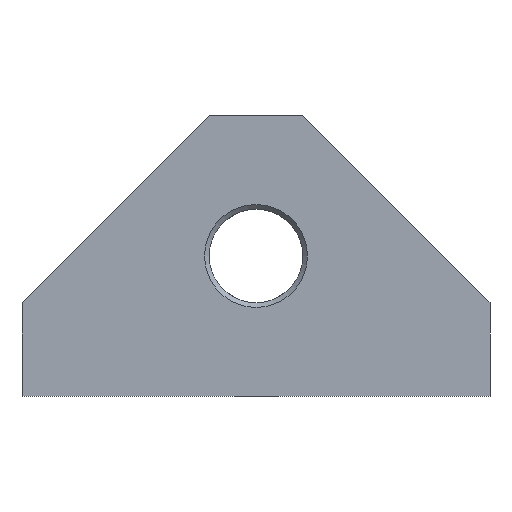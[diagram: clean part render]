
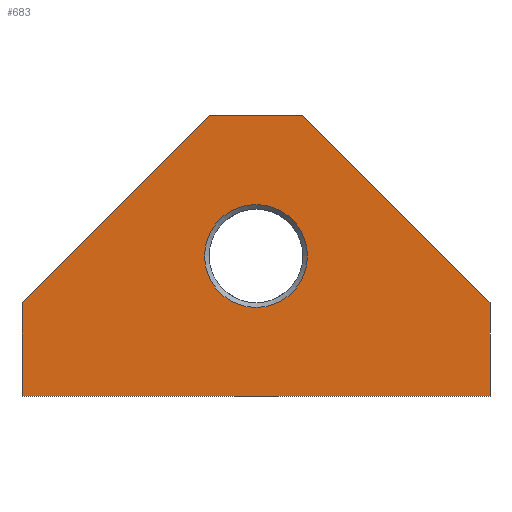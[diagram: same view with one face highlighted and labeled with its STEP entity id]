
A CAD part, front view. The second image highlights one B-rep face of the part: STEP entity #683.
In plain terms, the highlighted planar face has unit normal (0, -1, 0).
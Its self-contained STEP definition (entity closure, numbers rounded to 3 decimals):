
#32 = PLANE('',#33);
#33 = AXIS2_PLACEMENT_3D('',#34,#35,#36);
#34 = CARTESIAN_POINT('',(-25.,6.25,-15.));
#35 = DIRECTION('',(0.,0.,1.));
#36 = DIRECTION('',(1.,0.,0.));
#143 = VERTEX_POINT('',#144);
#144 = CARTESIAN_POINT('',(-25.,-6.25,-15.));
#158 = PLANE('',#159);
#159 = AXIS2_PLACEMENT_3D('',#160,#161,#162);
#160 = CARTESIAN_POINT('',(-25.,6.25,-5.));
#161 = DIRECTION('',(1.,0.,0.));
#162 = DIRECTION('',(0.,0.,-1.));
#170 = EDGE_CURVE('',#143,#171,#173,.T.);
#171 = VERTEX_POINT('',#172);
#172 = CARTESIAN_POINT('',(25.,-6.25,-15.));
#173 = SURFACE_CURVE('',#174,(#178,#185),.PCURVE_S1.);
#174 = LINE('',#175,#176);
#175 = CARTESIAN_POINT('',(-25.,-6.25,-15.));
#176 = VECTOR('',#177,1.);
#177 = DIRECTION('',(1.,0.,0.));
#178 = PCURVE('',#32,#179);
#179 = DEFINITIONAL_REPRESENTATION('',(#180),#184);
#180 = LINE('',#181,#182);
#181 = CARTESIAN_POINT('',(0.,-12.5));
#182 = VECTOR('',#183,1.);
#183 = DIRECTION('',(1.,0.));
#184 = ( GEOMETRIC_REPRESENTATION_CONTEXT(2) 
PARAMETRIC_REPRESENTATION_CONTEXT() REPRESENTATION_CONTEXT('2D SPACE',''
  ) );
#185 = PCURVE('',#186,#191);
#186 = PLANE('',#187);
#187 = AXIS2_PLACEMENT_3D('',#188,#189,#190);
#188 = CARTESIAN_POINT('',(0.,-6.25,-3.182));
#189 = DIRECTION('',(0.,1.,0.));
#190 = DIRECTION('',(0.,0.,1.));
#191 = DEFINITIONAL_REPRESENTATION('',(#192),#196);
#192 = LINE('',#193,#194);
#193 = CARTESIAN_POINT('',(-11.818,-25.));
#194 = VECTOR('',#195,1.);
#195 = DIRECTION('',(0.,1.));
#196 = ( GEOMETRIC_REPRESENTATION_CONTEXT(2) 
PARAMETRIC_REPRESENTATION_CONTEXT() REPRESENTATION_CONTEXT('2D SPACE',''
  ) );
#214 = PLANE('',#215);
#215 = AXIS2_PLACEMENT_3D('',#216,#217,#218);
#216 = CARTESIAN_POINT('',(25.,6.25,-15.));
#217 = DIRECTION('',(-1.,0.,0.));
#218 = DIRECTION('',(0.,0.,1.));
#474 = VERTEX_POINT('',#475);
#475 = CARTESIAN_POINT('',(-25.,-6.25,-5.));
#489 = PLANE('',#490);
#490 = AXIS2_PLACEMENT_3D('',#491,#492,#493);
#491 = CARTESIAN_POINT('',(-5.,6.25,15.));
#492 = DIRECTION('',(0.707,0.,-0.707));
#493 = DIRECTION('',(-0.707,0.,-0.707));
#501 = EDGE_CURVE('',#474,#143,#502,.T.);
#502 = SURFACE_CURVE('',#503,(#507,#514),.PCURVE_S1.);
#503 = LINE('',#504,#505);
#504 = CARTESIAN_POINT('',(-25.,-6.25,-5.));
#505 = VECTOR('',#506,1.);
#506 = DIRECTION('',(0.,0.,-1.));
#507 = PCURVE('',#158,#508);
#508 = DEFINITIONAL_REPRESENTATION('',(#509),#513);
#509 = LINE('',#510,#511);
#510 = CARTESIAN_POINT('',(0.,-12.5));
#511 = VECTOR('',#512,1.);
#512 = DIRECTION('',(1.,0.));
#513 = ( GEOMETRIC_REPRESENTATION_CONTEXT(2) 
PARAMETRIC_REPRESENTATION_CONTEXT() REPRESENTATION_CONTEXT('2D SPACE',''
  ) );
#514 = PCURVE('',#186,#515);
#515 = DEFINITIONAL_REPRESENTATION('',(#516),#520);
#516 = LINE('',#517,#518);
#517 = CARTESIAN_POINT('',(-1.818,-25.));
#518 = VECTOR('',#519,1.);
#519 = DIRECTION('',(-1.,0.));
#520 = ( GEOMETRIC_REPRESENTATION_CONTEXT(2) 
PARAMETRIC_REPRESENTATION_CONTEXT() REPRESENTATION_CONTEXT('2D SPACE',''
  ) );
#622 = PLANE('',#623);
#623 = AXIS2_PLACEMENT_3D('',#624,#625,#626);
#624 = CARTESIAN_POINT('',(25.,6.25,-5.));
#625 = DIRECTION('',(-0.707,0.,-0.707));
#626 = DIRECTION('',(-0.707,0.,0.707));
#650 = PLANE('',#651);
#651 = AXIS2_PLACEMENT_3D('',#652,#653,#654);
#652 = CARTESIAN_POINT('',(5.,6.25,15.));
#653 = DIRECTION('',(0.,0.,-1.));
#654 = DIRECTION('',(-1.,-0.,0.));
#683 = ADVANCED_FACE('',(#684,#719),#186,.F.);
#684 = FACE_BOUND('',#685,.F.);
#685 = EDGE_LOOP('',(#686));
#686 = ORIENTED_EDGE('',*,*,#687,.T.);
#687 = EDGE_CURVE('',#688,#688,#690,.T.);
#688 = VERTEX_POINT('',#689);
#689 = CARTESIAN_POINT('',(5.5,-6.25,0.));
#690 = SURFACE_CURVE('',#691,(#696,#707),.PCURVE_S1.);
#691 = CIRCLE('',#692,5.5);
#692 = AXIS2_PLACEMENT_3D('',#693,#694,#695);
#693 = CARTESIAN_POINT('',(0.,-6.25,0.));
#694 = DIRECTION('',(0.,-1.,0.));
#695 = DIRECTION('',(1.,0.,0.));
#696 = PCURVE('',#186,#697);
#697 = DEFINITIONAL_REPRESENTATION('',(#698),#706);
#698 = ( BOUNDED_CURVE() B_SPLINE_CURVE(2,(#699,#700,#701,#702,#703,#704
,#705),.UNSPECIFIED.,.T.,.F.) B_SPLINE_CURVE_WITH_KNOTS((1,2,2,2,2,1),(
    -2.094,0.,2.094,4.189,6.283,
8.378),.UNSPECIFIED.) CURVE() GEOMETRIC_REPRESENTATION_ITEM() 
RATIONAL_B_SPLINE_CURVE((1.,0.5,1.,0.5,1.,0.5,1.)) REPRESENTATION_ITEM(
  '') );
#699 = CARTESIAN_POINT('',(3.182,5.5));
#700 = CARTESIAN_POINT('',(12.708,5.5));
#701 = CARTESIAN_POINT('',(7.945,-2.75));
#702 = CARTESIAN_POINT('',(3.182,-11.));
#703 = CARTESIAN_POINT('',(-1.582,-2.75));
#704 = CARTESIAN_POINT('',(-6.345,5.5));
#705 = CARTESIAN_POINT('',(3.182,5.5));
#706 = ( GEOMETRIC_REPRESENTATION_CONTEXT(2) 
PARAMETRIC_REPRESENTATION_CONTEXT() REPRESENTATION_CONTEXT('2D SPACE',''
  ) );
#707 = PCURVE('',#708,#713);
#708 = CONICAL_SURFACE('',#709,5.,0.785);
#709 = AXIS2_PLACEMENT_3D('',#710,#711,#712);
#710 = CARTESIAN_POINT('',(0.,-5.75,0.));
#711 = DIRECTION('',(-0.,-1.,0.));
#712 = DIRECTION('',(1.,0.,0.));
#713 = DEFINITIONAL_REPRESENTATION('',(#714),#718);
#714 = LINE('',#715,#716);
#715 = CARTESIAN_POINT('',(-0.,0.5));
#716 = VECTOR('',#717,1.);
#717 = DIRECTION('',(1.,-0.));
#718 = ( GEOMETRIC_REPRESENTATION_CONTEXT(2) 
PARAMETRIC_REPRESENTATION_CONTEXT() REPRESENTATION_CONTEXT('2D SPACE',''
  ) );
#719 = FACE_BOUND('',#720,.T.);
#720 = EDGE_LOOP('',(#721,#722,#745,#768,#791,#812));
#721 = ORIENTED_EDGE('',*,*,#170,.T.);
#722 = ORIENTED_EDGE('',*,*,#723,.T.);
#723 = EDGE_CURVE('',#171,#724,#726,.T.);
#724 = VERTEX_POINT('',#725);
#725 = CARTESIAN_POINT('',(25.,-6.25,-5.));
#726 = SURFACE_CURVE('',#727,(#731,#738),.PCURVE_S1.);
#727 = LINE('',#728,#729);
#728 = CARTESIAN_POINT('',(25.,-6.25,-15.));
#729 = VECTOR('',#730,1.);
#730 = DIRECTION('',(0.,0.,1.));
#731 = PCURVE('',#186,#732);
#732 = DEFINITIONAL_REPRESENTATION('',(#733),#737);
#733 = LINE('',#734,#735);
#734 = CARTESIAN_POINT('',(-11.818,25.));
#735 = VECTOR('',#736,1.);
#736 = DIRECTION('',(1.,0.));
#737 = ( GEOMETRIC_REPRESENTATION_CONTEXT(2) 
PARAMETRIC_REPRESENTATION_CONTEXT() REPRESENTATION_CONTEXT('2D SPACE',''
  ) );
#738 = PCURVE('',#214,#739);
#739 = DEFINITIONAL_REPRESENTATION('',(#740),#744);
#740 = LINE('',#741,#742);
#741 = CARTESIAN_POINT('',(0.,-12.5));
#742 = VECTOR('',#743,1.);
#743 = DIRECTION('',(1.,0.));
#744 = ( GEOMETRIC_REPRESENTATION_CONTEXT(2) 
PARAMETRIC_REPRESENTATION_CONTEXT() REPRESENTATION_CONTEXT('2D SPACE',''
  ) );
#745 = ORIENTED_EDGE('',*,*,#746,.T.);
#746 = EDGE_CURVE('',#724,#747,#749,.T.);
#747 = VERTEX_POINT('',#748);
#748 = CARTESIAN_POINT('',(5.,-6.25,15.));
#749 = SURFACE_CURVE('',#750,(#754,#761),.PCURVE_S1.);
#750 = LINE('',#751,#752);
#751 = CARTESIAN_POINT('',(25.,-6.25,-5.));
#752 = VECTOR('',#753,1.);
#753 = DIRECTION('',(-0.707,0.,0.707));
#754 = PCURVE('',#186,#755);
#755 = DEFINITIONAL_REPRESENTATION('',(#756),#760);
#756 = LINE('',#757,#758);
#757 = CARTESIAN_POINT('',(-1.818,25.));
#758 = VECTOR('',#759,1.);
#759 = DIRECTION('',(0.707,-0.707));
#760 = ( GEOMETRIC_REPRESENTATION_CONTEXT(2) 
PARAMETRIC_REPRESENTATION_CONTEXT() REPRESENTATION_CONTEXT('2D SPACE',''
  ) );
#761 = PCURVE('',#622,#762);
#762 = DEFINITIONAL_REPRESENTATION('',(#763),#767);
#763 = LINE('',#764,#765);
#764 = CARTESIAN_POINT('',(0.,-12.5));
#765 = VECTOR('',#766,1.);
#766 = DIRECTION('',(1.,0.));
#767 = ( GEOMETRIC_REPRESENTATION_CONTEXT(2) 
PARAMETRIC_REPRESENTATION_CONTEXT() REPRESENTATION_CONTEXT('2D SPACE',''
  ) );
#768 = ORIENTED_EDGE('',*,*,#769,.T.);
#769 = EDGE_CURVE('',#747,#770,#772,.T.);
#770 = VERTEX_POINT('',#771);
#771 = CARTESIAN_POINT('',(-5.,-6.25,15.));
#772 = SURFACE_CURVE('',#773,(#777,#784),.PCURVE_S1.);
#773 = LINE('',#774,#775);
#774 = CARTESIAN_POINT('',(5.,-6.25,15.));
#775 = VECTOR('',#776,1.);
#776 = DIRECTION('',(-1.,-0.,0.));
#777 = PCURVE('',#186,#778);
#778 = DEFINITIONAL_REPRESENTATION('',(#779),#783);
#779 = LINE('',#780,#781);
#780 = CARTESIAN_POINT('',(18.182,5.));
#781 = VECTOR('',#782,1.);
#782 = DIRECTION('',(0.,-1.));
#783 = ( GEOMETRIC_REPRESENTATION_CONTEXT(2) 
PARAMETRIC_REPRESENTATION_CONTEXT() REPRESENTATION_CONTEXT('2D SPACE',''
  ) );
#784 = PCURVE('',#650,#785);
#785 = DEFINITIONAL_REPRESENTATION('',(#786),#790);
#786 = LINE('',#787,#788);
#787 = CARTESIAN_POINT('',(0.,-12.5));
#788 = VECTOR('',#789,1.);
#789 = DIRECTION('',(1.,0.));
#790 = ( GEOMETRIC_REPRESENTATION_CONTEXT(2) 
PARAMETRIC_REPRESENTATION_CONTEXT() REPRESENTATION_CONTEXT('2D SPACE',''
  ) );
#791 = ORIENTED_EDGE('',*,*,#792,.T.);
#792 = EDGE_CURVE('',#770,#474,#793,.T.);
#793 = SURFACE_CURVE('',#794,(#798,#805),.PCURVE_S1.);
#794 = LINE('',#795,#796);
#795 = CARTESIAN_POINT('',(-5.,-6.25,15.));
#796 = VECTOR('',#797,1.);
#797 = DIRECTION('',(-0.707,-0.,-0.707));
#798 = PCURVE('',#186,#799);
#799 = DEFINITIONAL_REPRESENTATION('',(#800),#804);
#800 = LINE('',#801,#802);
#801 = CARTESIAN_POINT('',(18.182,-5.));
#802 = VECTOR('',#803,1.);
#803 = DIRECTION('',(-0.707,-0.707));
#804 = ( GEOMETRIC_REPRESENTATION_CONTEXT(2) 
PARAMETRIC_REPRESENTATION_CONTEXT() REPRESENTATION_CONTEXT('2D SPACE',''
  ) );
#805 = PCURVE('',#489,#806);
#806 = DEFINITIONAL_REPRESENTATION('',(#807),#811);
#807 = LINE('',#808,#809);
#808 = CARTESIAN_POINT('',(0.,-12.5));
#809 = VECTOR('',#810,1.);
#810 = DIRECTION('',(1.,0.));
#811 = ( GEOMETRIC_REPRESENTATION_CONTEXT(2) 
PARAMETRIC_REPRESENTATION_CONTEXT() REPRESENTATION_CONTEXT('2D SPACE',''
  ) );
#812 = ORIENTED_EDGE('',*,*,#501,.T.);
